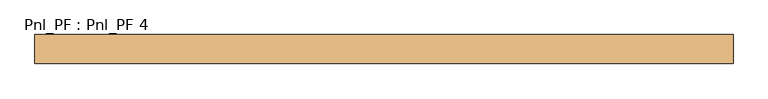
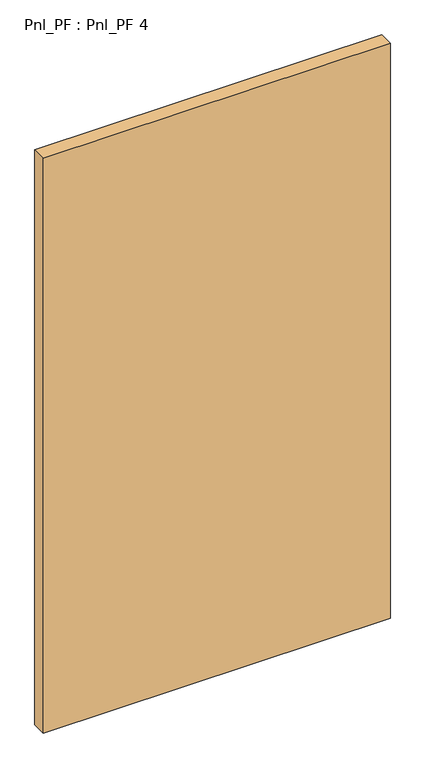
"""IFC4 building model written with IfcOpenShell, lengths in millimetres: door geometry, Pnl_PF : Pnl_PF 4."""

from ifc_helpers import new_model, si_unit, origin, origin_with_axes, place, context, project, spatial, polyline, outline, extrude, source, transform, mapped, element, save


def pnl_pf_pnl_pf_4_7045c2cb(model_context):
    return source(origin(), model_context, "Body", "SweptSolid", [
        extrude(outline(polyline([(1200.0, -50.0), (0.0, -50.0), (0.0, 0.0), (1200.0, 0.0), (1200.0, -50.0)])), origin_with_axes(), (0.0, 0.0, 1.0), 2100.0),
    ])


if __name__ == "__main__":
    model = new_model("IFC4")
    model_context = context("Model", 3, world=origin())
    ifc_project = project(units=[si_unit("LENGTHUNIT", "METRE", prefix="MILLI")], contexts=[model_context])
    site = spatial("IfcSite", under=ifc_project)
    building = spatial("IfcBuilding", under=site)
    placement = place(None, origin())
    pnl_pf_pnl_pf_4_shape = pnl_pf_pnl_pf_4_7045c2cb(model_context)
    element("IfcDoor", 1, ObjectType="Pnl_PF : Pnl_PF 4", at=placement, inside=building, context=model_context, shape_type="MappedRepresentation", body=[
        mapped(pnl_pf_pnl_pf_4_shape, transform((0.0, 0.0, 0.0), x_axis=(1.0, 0.0, 0.0), y_axis=(0.0, 1.0, 0.0), z_axis=(0.0, 0.0, 1.0))),
    ])
    save(model, "model.ifc")
